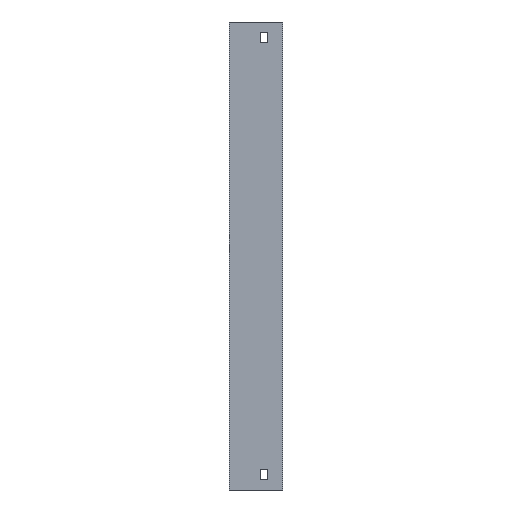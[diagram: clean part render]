
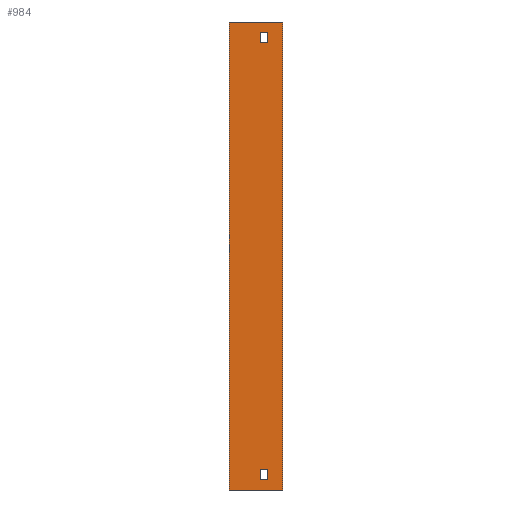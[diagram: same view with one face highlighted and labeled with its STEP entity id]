
A CAD part, left-side view. The second image highlights one B-rep face of the part: STEP entity #984.
In plain terms, the highlighted planar face has unit normal (-1, 0, 0).
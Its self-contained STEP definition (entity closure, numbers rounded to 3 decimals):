
#7 = EDGE_LOOP ( 'NONE', ( #1424, #456, #1838, #1728 ) ) ;
#10 = ORIENTED_EDGE ( 'NONE', *, *, #228, .F. ) ;
#19 = CARTESIAN_POINT ( 'NONE',  ( -254., 22., 30. ) ) ;
#28 = DIRECTION ( 'NONE',  ( 0., 0., -1. ) ) ;
#37 = DIRECTION ( 'NONE',  ( 0., -1., 0. ) ) ;
#62 = EDGE_CURVE ( 'NONE', #1643, #486, #1868, .T. ) ;
#66 = CARTESIAN_POINT ( 'NONE',  ( -254., 22., -384. ) ) ;
#161 = FACE_BOUND ( 'NONE', #7, .T. ) ;
#184 = VECTOR ( 'NONE', #405, 1000. ) ;
#198 = VERTEX_POINT ( 'NONE', #1638 ) ;
#208 = VECTOR ( 'NONE', #883, 1000. ) ;
#228 = EDGE_CURVE ( 'NONE', #307, #1607, #1799, .T. ) ;
#239 = EDGE_CURVE ( 'NONE', #198, #825, #1703, .T. ) ;
#307 = VERTEX_POINT ( 'NONE', #1239 ) ;
#310 = EDGE_LOOP ( 'NONE', ( #1934, #969, #1078, #893 ) ) ;
#311 = VECTOR ( 'NONE', #37, 1000. ) ;
#318 = LINE ( 'NONE', #329, #877 ) ;
#329 = CARTESIAN_POINT ( 'NONE',  ( -254., 22., -384. ) ) ;
#359 = CARTESIAN_POINT ( 'NONE',  ( -254., 52., -404. ) ) ;
#387 = EDGE_CURVE ( 'NONE', #549, #1640, #1432, .T. ) ;
#397 = EDGE_CURVE ( 'NONE', #825, #1640, #1285, .T. ) ;
#398 = CARTESIAN_POINT ( 'NONE',  ( -254., 15., 40. ) ) ;
#405 = DIRECTION ( 'NONE',  ( 0., 0., -1. ) ) ;
#409 = LINE ( 'NONE', #1617, #208 ) ;
#456 = ORIENTED_EDGE ( 'NONE', *, *, #1680, .T. ) ;
#471 = ORIENTED_EDGE ( 'NONE', *, *, #1654, .F. ) ;
#472 = DIRECTION ( 'NONE',  ( 0., 1., 0. ) ) ;
#484 = DIRECTION ( 'NONE',  ( 0., 1., 0. ) ) ;
#485 = FACE_BOUND ( 'NONE', #648, .T. ) ;
#486 = VERTEX_POINT ( 'NONE', #1037 ) ;
#491 = CARTESIAN_POINT ( 'NONE',  ( -254., 22., -394. ) ) ;
#529 = CARTESIAN_POINT ( 'NONE',  ( -254., 22., 40. ) ) ;
#543 = LINE ( 'NONE', #398, #184 ) ;
#549 = VERTEX_POINT ( 'NONE', #1081 ) ;
#558 = VECTOR ( 'NONE', #912, 1000. ) ;
#616 = FACE_OUTER_BOUND ( 'NONE', #310, .T. ) ;
#620 = LINE ( 'NONE', #1372, #1506 ) ;
#648 = EDGE_LOOP ( 'NONE', ( #10, #471, #1566, #1659 ) ) ;
#675 = VERTEX_POINT ( 'NONE', #1355 ) ;
#742 = CARTESIAN_POINT ( 'NONE',  ( -254., 15., -394. ) ) ;
#750 = CARTESIAN_POINT ( 'NONE',  ( -254., 15., -394. ) ) ;
#759 = DIRECTION ( 'NONE',  ( 0., 0., -1. ) ) ;
#781 = CARTESIAN_POINT ( 'NONE',  ( -254., 52., -404. ) ) ;
#791 = DIRECTION ( 'NONE',  ( 1., 0., 0. ) ) ;
#821 = VERTEX_POINT ( 'NONE', #1289 ) ;
#825 = VERTEX_POINT ( 'NONE', #858 ) ;
#847 = DIRECTION ( 'NONE',  ( 0., 0., 1. ) ) ;
#858 = CARTESIAN_POINT ( 'NONE',  ( -254., 0., -404. ) ) ;
#877 = VECTOR ( 'NONE', #472, 1000. ) ;
#883 = DIRECTION ( 'NONE',  ( 0., 0., 1. ) ) ;
#893 = ORIENTED_EDGE ( 'NONE', *, *, #239, .T. ) ;
#912 = DIRECTION ( 'NONE',  ( 0., 0., 1. ) ) ;
#923 = DIRECTION ( 'NONE',  ( 0., -1., 0. ) ) ;
#935 = VECTOR ( 'NONE', #1706, 1000. ) ;
#957 = EDGE_CURVE ( 'NONE', #1607, #1895, #1500, .T. ) ;
#962 = VECTOR ( 'NONE', #847, 1000. ) ;
#969 = ORIENTED_EDGE ( 'NONE', *, *, #387, .F. ) ;
#984 = ADVANCED_FACE ( 'NONE', ( #616, #161, #485 ), #1238, .F. ) ;
#989 = CARTESIAN_POINT ( 'NONE',  ( -254., 52., 50. ) ) ;
#1029 = CARTESIAN_POINT ( 'NONE',  ( -254., 15., -384. ) ) ;
#1037 = CARTESIAN_POINT ( 'NONE',  ( -254., 22., 40. ) ) ;
#1069 = VERTEX_POINT ( 'NONE', #66 ) ;
#1078 = ORIENTED_EDGE ( 'NONE', *, *, #1099, .F. ) ;
#1081 = CARTESIAN_POINT ( 'NONE',  ( -254., 52., 50. ) ) ;
#1099 = EDGE_CURVE ( 'NONE', #198, #549, #409, .T. ) ;
#1116 = DIRECTION ( 'NONE',  ( 0., 0., 1. ) ) ;
#1136 = VECTOR ( 'NONE', #1270, 1000. ) ;
#1191 = LINE ( 'NONE', #1366, #1821 ) ;
#1238 = PLANE ( 'NONE',  #1777 ) ;
#1239 = CARTESIAN_POINT ( 'NONE',  ( -254., 22., -394. ) ) ;
#1251 = LINE ( 'NONE', #1651, #1906 ) ;
#1270 = DIRECTION ( 'NONE',  ( 0., -1., 0. ) ) ;
#1285 = LINE ( 'NONE', #1595, #962 ) ;
#1289 = CARTESIAN_POINT ( 'NONE',  ( -254., 15., 30. ) ) ;
#1355 = CARTESIAN_POINT ( 'NONE',  ( -254., 15., 40. ) ) ;
#1366 = CARTESIAN_POINT ( 'NONE',  ( -254., 22., 40. ) ) ;
#1368 = VECTOR ( 'NONE', #1116, 1000. ) ;
#1372 = CARTESIAN_POINT ( 'NONE',  ( -254., 22., -394. ) ) ;
#1424 = ORIENTED_EDGE ( 'NONE', *, *, #62, .T. ) ;
#1432 = LINE ( 'NONE', #989, #935 ) ;
#1495 = EDGE_CURVE ( 'NONE', #675, #821, #543, .T. ) ;
#1500 = LINE ( 'NONE', #750, #558 ) ;
#1506 = VECTOR ( 'NONE', #28, 1000. ) ;
#1524 = CARTESIAN_POINT ( 'NONE',  ( -254., 0., 50. ) ) ;
#1566 = ORIENTED_EDGE ( 'NONE', *, *, #1770, .F. ) ;
#1595 = CARTESIAN_POINT ( 'NONE',  ( -254., 0., -404. ) ) ;
#1607 = VERTEX_POINT ( 'NONE', #742 ) ;
#1617 = CARTESIAN_POINT ( 'NONE',  ( -254., 52., -404. ) ) ;
#1638 = CARTESIAN_POINT ( 'NONE',  ( -254., 52., -404. ) ) ;
#1640 = VERTEX_POINT ( 'NONE', #1524 ) ;
#1643 = VERTEX_POINT ( 'NONE', #19 ) ;
#1651 = CARTESIAN_POINT ( 'NONE',  ( -254., 22., 30. ) ) ;
#1654 = EDGE_CURVE ( 'NONE', #1069, #307, #620, .T. ) ;
#1659 = ORIENTED_EDGE ( 'NONE', *, *, #957, .F. ) ;
#1674 = EDGE_CURVE ( 'NONE', #821, #1643, #1251, .T. ) ;
#1680 = EDGE_CURVE ( 'NONE', #486, #675, #1191, .T. ) ;
#1703 = LINE ( 'NONE', #359, #1136 ) ;
#1706 = DIRECTION ( 'NONE',  ( 0., -1., 0. ) ) ;
#1728 = ORIENTED_EDGE ( 'NONE', *, *, #1674, .T. ) ;
#1770 = EDGE_CURVE ( 'NONE', #1895, #1069, #318, .T. ) ;
#1777 = AXIS2_PLACEMENT_3D ( 'NONE', #781, #791, #759 ) ;
#1799 = LINE ( 'NONE', #491, #311 ) ;
#1821 = VECTOR ( 'NONE', #923, 1000. ) ;
#1838 = ORIENTED_EDGE ( 'NONE', *, *, #1495, .T. ) ;
#1868 = LINE ( 'NONE', #529, #1368 ) ;
#1895 = VERTEX_POINT ( 'NONE', #1029 ) ;
#1906 = VECTOR ( 'NONE', #484, 1000. ) ;
#1934 = ORIENTED_EDGE ( 'NONE', *, *, #397, .T. ) ;
